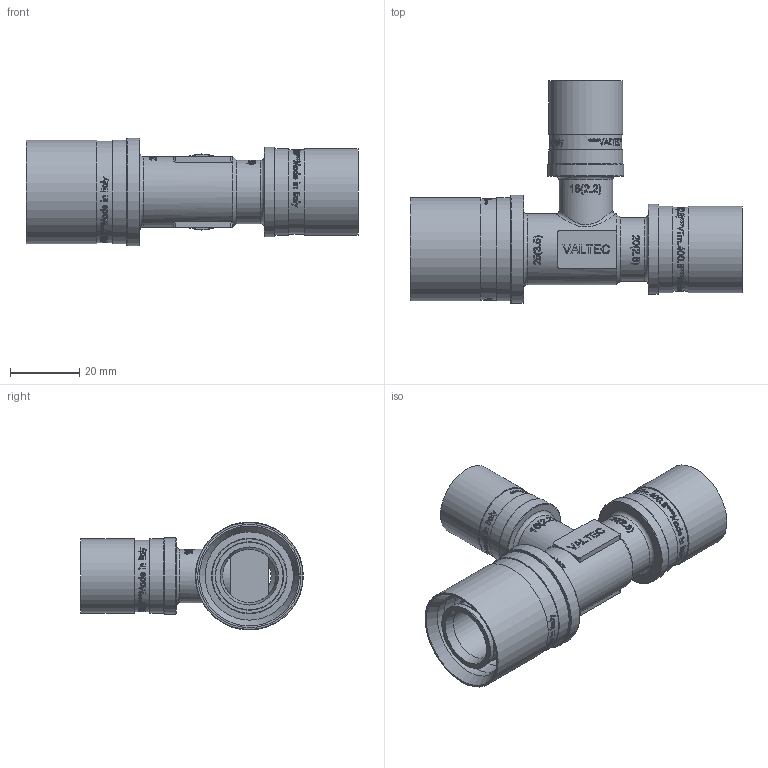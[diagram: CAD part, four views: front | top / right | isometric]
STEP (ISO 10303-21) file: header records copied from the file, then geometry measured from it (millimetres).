
FILE_DESCRIPTION(/* description */ (''),/* implementation_level */ '2;1');
FILE_NAME(/* name */ 'F:\Артём\00000\Работа удаленка\Аксеальные фитинги\VTm.431.BG.251620.stp',/* time_stamp */ '2021-01-26T12:51:43+03:00',/* author */ ('almis'),/* organization */ (''),/* preprocessor_version */ 'ST-DEVELOPER v18',/* originating_system */ 'Autodesk Inventor 2020',/* authorisation */ '');
FILE_SCHEMA (('AUTOMOTIVE_DESIGN { 1 0 10303 214 3 1 1 }'));
Length unit declared in the file: millimetre
Products named in the file (1): VTm.403.BG.001616
Bounding box: 95.92 x 64.31 x 31.2 mm (x, y, z)
Volume: 30505.3 mm3; surface area: 26808.6 mm2
Topology: 1 solids, 2 shells, 2476 faces, 6799 edges, 4579 vertices
Faces by surface type: bspline 1274, plane 845, cylinder 267, torus 69, cone 21
Full cylindrical faces by diameter (mm): 10 x2, 12.6 x1, 12.8 x5, 13.4 x4, 15.3 x1, 15.4 x1, 15.5 x1, 15.7 x5, 16.5 x4, 16.9 x2, 18.2 x1, 18.3 x6, 19.8 x4, 20.5 x1, 20.65 x2, 20.8 x1, 21.4 x2, 21.8 x1, 22 x1, 24.3 x1, 25 x2, 25.5 x2, 26 x1, 29.3 x1, 29.85 x2, 31.2 x1
Entity records: 102656 total; most frequent: CARTESIAN_POINT 47155, ORIENTED_EDGE 13600, DIRECTION 7836, EDGE_CURVE 6800, VERTEX_POINT 4580, LINE 3024, VECTOR 3024, EDGE_LOOP 2730
